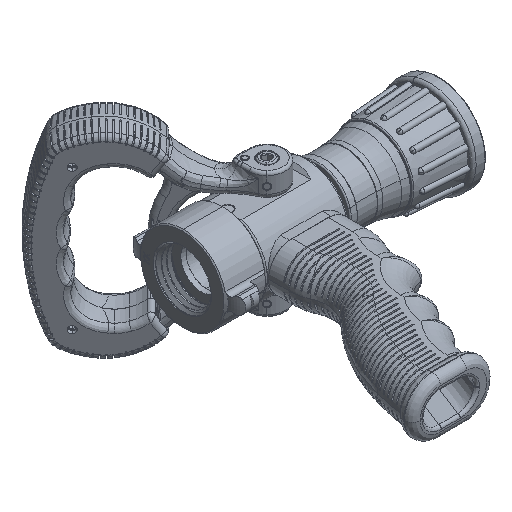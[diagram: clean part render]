
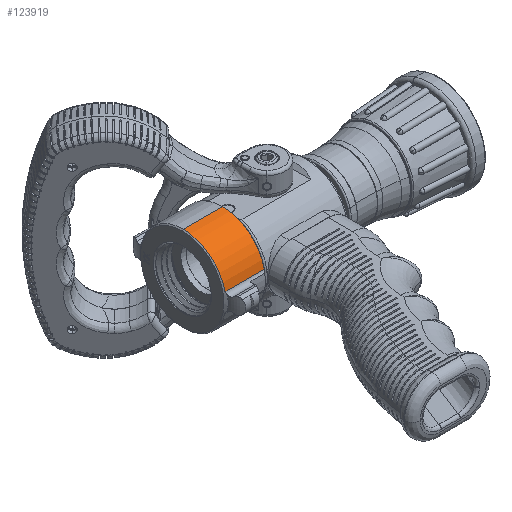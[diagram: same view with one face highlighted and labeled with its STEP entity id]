
A CAD part, isometric view. The second image highlights one B-rep face of the part: STEP entity #123919.
In plain terms, the highlighted cylindrical face has radius 26.035 mm (diameter 52.07 mm), a partial arc.
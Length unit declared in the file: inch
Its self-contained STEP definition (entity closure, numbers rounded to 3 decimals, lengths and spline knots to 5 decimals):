
#5486 = CARTESIAN_POINT ( 'NONE',  ( -4.89, 0., 1.025 ) ) ;
#5503 = CARTESIAN_POINT ( 'NONE',  ( -5.83, 0., 1.025 ) ) ;
#5504 = CARTESIAN_POINT ( 'NONE',  ( -5.83, -0.99937, 0.22778 ) ) ;
#6429 = CARTESIAN_POINT ( 'NONE',  ( -4.89, -0.99937, 0.22778 ) ) ;
#14892 = ORIENTED_EDGE ( 'NONE', *, *, #46334, .F. ) ;
#14894 = ORIENTED_EDGE ( 'NONE', *, *, #46331, .F. ) ;
#14896 = ORIENTED_EDGE ( 'NONE', *, *, #45957, .T. ) ;
#14898 = ORIENTED_EDGE ( 'NONE', *, *, #128697, .F. ) ;
#23286 = CARTESIAN_POINT ( 'NONE',  ( -4.89, 0., 0. ) ) ;
#23288 = DIRECTION ( 'NONE',  ( 1., 0., 0. ) ) ;
#23290 = DIRECTION ( 'NONE',  ( 0., 0., -1. ) ) ;
#45957 = EDGE_CURVE ( 'NONE', #126389, #126975, #48630, .T. ) ;
#46331 = EDGE_CURVE ( 'NONE', #126389, #126388, #49042, .T. ) ;
#46334 = EDGE_CURVE ( 'NONE', #126388, #126377, #49059, .T. ) ;
#48628 = VECTOR ( 'NONE', #63744, 39.37008 ) ;
#48630 = LINE ( 'NONE', #63734, #48628 ) ;
#49042 = CIRCLE ( 'NONE', #95580, 1.025 ) ;
#49059 = LINE ( 'NONE', #69477, #49063 ) ;
#49063 = VECTOR ( 'NONE', #69478, 39.37008 ) ;
#63734 = CARTESIAN_POINT ( 'NONE',  ( -5.905, -0.99937, 0.22778 ) ) ;
#63744 = DIRECTION ( 'NONE',  ( 1., 0., 0. ) ) ;
#69477 = CARTESIAN_POINT ( 'NONE',  ( -5.905, 0., 1.025 ) ) ;
#69478 = DIRECTION ( 'NONE',  ( 1., 0., 0. ) ) ;
#69479 = CARTESIAN_POINT ( 'NONE',  ( -5.83, 0., 0. ) ) ;
#69480 = DIRECTION ( 'NONE',  ( -1., 0., 0. ) ) ;
#69481 = DIRECTION ( 'NONE',  ( 0., 0., 1. ) ) ;
#72859 = EDGE_LOOP ( 'NONE', ( #14892, #14894, #14896, #14898 ) ) ;
#79744 = FACE_OUTER_BOUND ( 'NONE', #72859, .T. ) ;
#79763 = CYLINDRICAL_SURFACE ( 'NONE', #110710, 1.025 ) ;
#95580 = AXIS2_PLACEMENT_3D ( 'NONE', #69479, #69480, #69481 ) ;
#110710 = AXIS2_PLACEMENT_3D ( 'NONE', #119822, #119820, #119818 ) ;
#111261 = AXIS2_PLACEMENT_3D ( 'NONE', #23286, #23288, #23290 ) ;
#119818 = DIRECTION ( 'NONE',  ( 0., 0., 1. ) ) ;
#119820 = DIRECTION ( 'NONE',  ( 1., 0., 0. ) ) ;
#119822 = CARTESIAN_POINT ( 'NONE',  ( -5.905, 0., 0. ) ) ;
#123919 = ADVANCED_FACE ( 'NONE', ( #79744 ), #79763, .T. ) ;
#126377 = VERTEX_POINT ( 'NONE', #5486 ) ;
#126388 = VERTEX_POINT ( 'NONE', #5503 ) ;
#126389 = VERTEX_POINT ( 'NONE', #5504 ) ;
#126975 = VERTEX_POINT ( 'NONE', #6429 ) ;
#128697 = EDGE_CURVE ( 'NONE', #126377, #126975, #129591, .T. ) ;
#129591 = CIRCLE ( 'NONE', #111261, 1.025 ) ;
